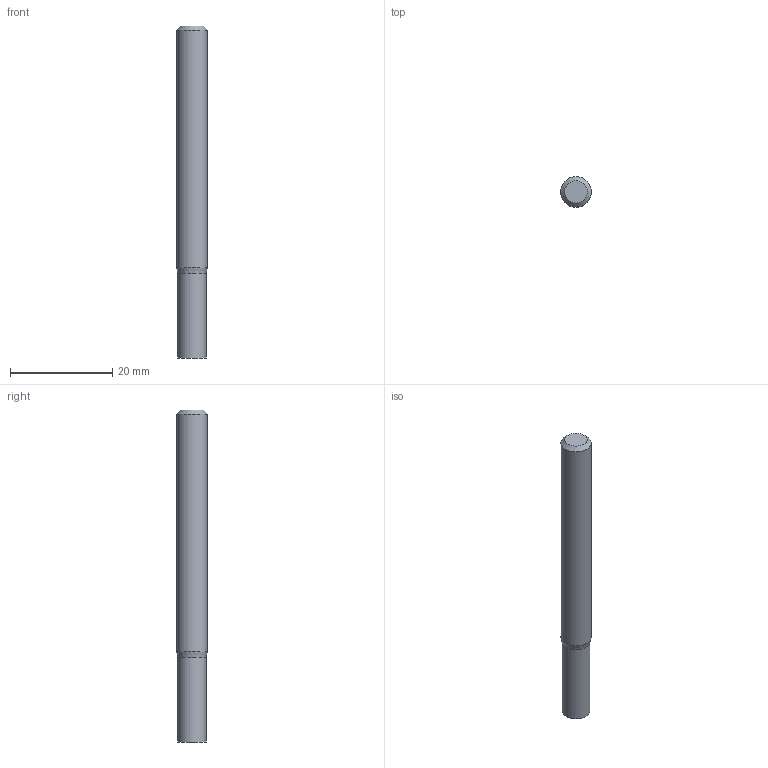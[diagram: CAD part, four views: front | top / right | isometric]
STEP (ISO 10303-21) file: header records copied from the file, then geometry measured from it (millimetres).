
FILE_DESCRIPTION((''),'2;1');
FILE_NAME('C:\Users\nsx150\AppData\Local\Temp\Mastercam 2021\AMKO7YXE3Q\TEMP.step','2024-03-15T17:56:31',(''),(''),'STEP Write','Mastercam 2021 ... CNC Software, Inc.','');
FILE_SCHEMA(('AUTOMOTIVE_DESIGN'));
Length unit declared in the file: millimetre
Products named in the file (1): None
Bounding box: 6 x 6 x 65 mm (x, y, z)
Volume: 1755.1 mm3; surface area: 1288.7 mm2
Topology: 2 solids, 2 shells, 8 faces, 10 edges, 6 vertices
Faces by surface type: plane 4, cylinder 2, cone 2
Full cylindrical faces by diameter (mm): 5.5 x1, 6 x1
Entity records: 190 total; most frequent: DIRECTION 32, CARTESIAN_POINT 22, AXIS2_PLACEMENT_3D 16, ORIENTED_EDGE 12, EDGE_LOOP 12, STYLED_ITEM 11, ADVANCED_FACE 8, VERTEX_POINT 6
